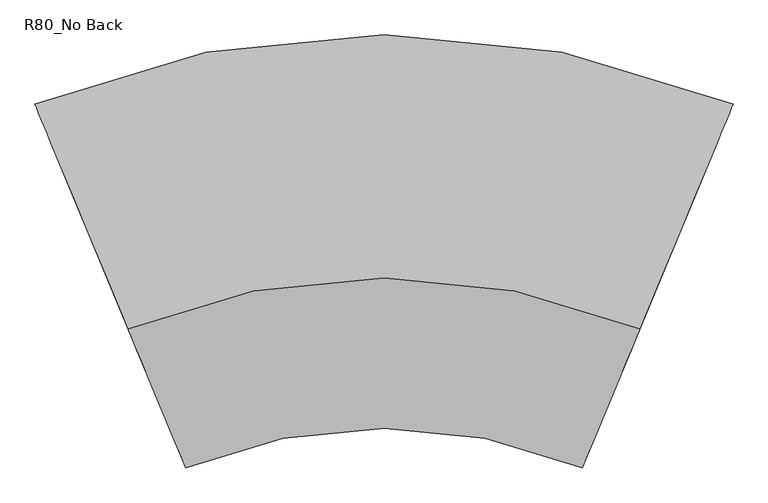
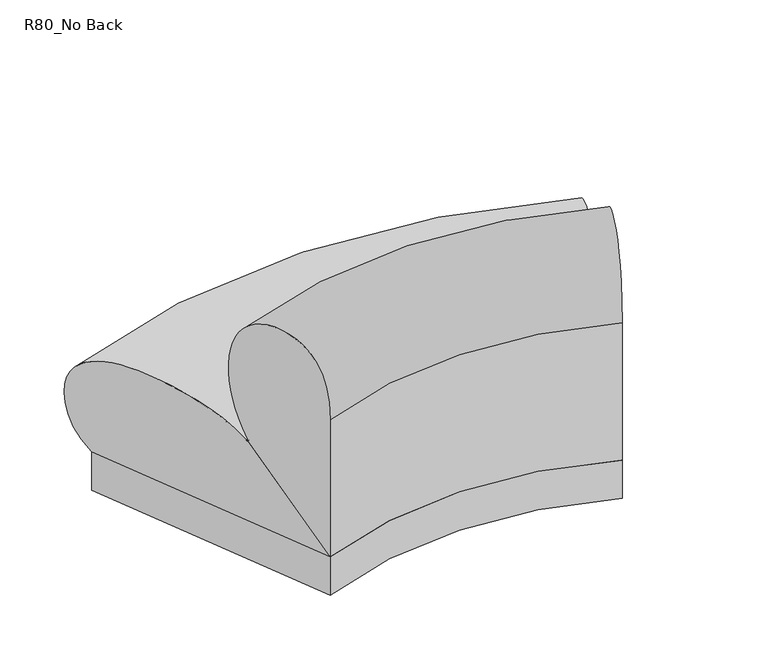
"""IFC4 building model written with IfcOpenShell, lengths in millimetres: furniture geometry, Memo_Candy_CurveOutside_R80 : R80_No Back."""

from ifc_helpers import new_model, si_unit, point, frame, frame_2d, origin, origin_with_axes, place, context, project, spatial, polyline, circle_curve, ellipse_curve, trimmed, segment, composite_curve, outline, extrude, source, transform, mapped, element, save
from ifc_brep_helpers import plane_surface, revolved_surface, spline_curve, advanced_brep


def r80_no_back_58fa6912(model_context):
    return source(origin(), model_context, "Body", "SolidModel", [
        advanced_brep(
        [(-434.9771234, -486.5723294, 130.8862), (-434.9771234, -486.5723294, 562.6862), (-537.3036784, -239.5341724, 386.6180112), (-537.4516317, -239.1769817, 382.770933), (434.9771234, -486.5723294, 130.8862), (537.4516317, -239.1769817, 382.770933), (537.3036784, -239.5341724, 386.6180112), (434.9771234, -486.5723294, 562.6862)],
        [
            (0, 1),
            (1, 2, spline_curve(3, [(-434.9771234, -486.5723294, 562.6862), (-434.9771234, -486.5723294, 709.516352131), (-457.799694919, -431.473767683, 756.110862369), (-506.132644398, -314.787705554, 789.248467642), (-531.671678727, -253.131022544, 768.908542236), (-559.599305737, -185.707766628, 674.263665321), (-563.47953347, -176.340068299, 603.825037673), (-556.829722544, -192.394132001, 487.129586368), (-549.805793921, -209.351395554, 439.369212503), (-537.3036784, -239.5341724, 386.6180112)], [4, 2, 2, 2, 4], [0.0, 0.5511378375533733, 1.1606492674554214, 1.727611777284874, 2.146168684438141])),
            (2, 3, circle_curve(frame((-538.3366439, -237.0403731, 384.9463138), z_axis=(0.9238795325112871, 0.38268343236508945, 0.0), x_axis=(0.38268343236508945, -0.9238795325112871, 0.0)), 3.175)),
            (3, 0),
            (4, 5),
            (5, 6, circle_curve(frame((538.3366439, -237.0403731, 384.9463138), z_axis=(-0.9238795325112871, 0.38268343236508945, 0.0), x_axis=(-0.38268343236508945, -0.9238795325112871, 0.0)), 3.175)),
            (6, 7, spline_curve(3, [(537.3036784, -239.5341724, 386.6180112), (549.805793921, -209.351395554, 439.369212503), (556.829722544, -192.394132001, 487.129586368), (563.47953347, -176.340068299, 603.825037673), (559.599305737, -185.707766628, 674.263665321), (531.671678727, -253.131022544, 768.908542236), (506.132644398, -314.787705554, 789.248467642), (457.799694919, -431.473767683, 756.110862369), (434.9771234, -486.5723294, 709.516352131), (434.9771234, -486.5723294, 562.6862)], [4, 2, 2, 2, 4], [0.0, 0.4185569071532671, 0.9855194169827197, 1.5950308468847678, 2.146168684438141])),
            (7, 4),
            (4, 0, circle_curve(frame((0.0, -1536.7, 130.8862), z_axis=(0.0, 0.0, 1.0), x_axis=(-0.38268343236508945, 0.9238795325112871, 0.0)), 1136.65)),
            (3, 5, circle_curve(frame((0.0, -1536.7, 382.770933), z_axis=(0.0, 0.0, -1.0), x_axis=(-0.38268343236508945, 0.9238795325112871, 0.0)), 1404.4287947)),
            (2, 6, circle_curve(frame((0.0, -1536.7, 386.6180112), z_axis=(0.0, 0.0, -1.0), x_axis=(-0.38268343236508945, 0.9238795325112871, 0.0)), 1404.0421742)),
            (1, 7, circle_curve(frame((0.0, -1536.7, 562.6862), z_axis=(0.0, 0.0, -1.0), x_axis=(-0.38268343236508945, 0.9238795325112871, 0.0)), 1136.65)),
        ],
        [
            plane_surface(frame((0.0, -1536.7, -101.6), z_axis=(-0.923879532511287, -0.3826834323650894, 0.0), x_axis=(-0.3826834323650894, 0.923879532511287, 0.0))),
            plane_surface(frame((0.0, -1536.7, -101.6), z_axis=(0.923879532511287, -0.3826834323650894, 0.0), x_axis=(0.3826834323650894, 0.923879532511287, 0.0))),
            revolved_surface(polyline([(-537.4516317, -239.1769817, 382.770933), (-434.9771234, -486.5723294, 130.8862)]), (0.0, -1536.7, -101.6), (0.0, 0.0, -1.0)),
            revolved_surface(trimmed(ellipse_curve(frame((-538.3366439, -237.0403731, 384.9463138), z_axis=(0.9238795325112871, 0.38268343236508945, 0.0), x_axis=(0.38268343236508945, -0.9238795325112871, 0.0)), 3.175, 3.175), [point((-537.3036784, -239.5341724, 386.6180112))], [point((-537.4516317, -239.1769817, 382.770933))], True, "CARTESIAN"), (0.0, -1536.7, -101.6), (0.0, 0.0, -1.0)),
            revolved_surface(spline_curve(3, [(-434.9771234, -486.5723294, 562.6862), (-434.9771234, -486.5723294, 709.516352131), (-457.799694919, -431.473767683, 756.110862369), (-506.132644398, -314.787705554, 789.248467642), (-531.671678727, -253.131022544, 768.908542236), (-559.599305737, -185.707766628, 674.263665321), (-563.47953347, -176.340068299, 603.825037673), (-556.829722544, -192.394132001, 487.129586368), (-549.805793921, -209.351395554, 439.369212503), (-537.3036784, -239.5341724, 386.6180112)], [4, 2, 2, 2, 4], [0.0, 0.5511378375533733, 1.1606492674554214, 1.727611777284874, 2.146168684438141]), (0.0, -1536.7, -101.6), (0.0, 0.0, -1.0)),
            revolved_surface(polyline([(-434.97712339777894, -486.5723293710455, 130.8862), (-434.97712339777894, -486.5723293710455, 562.6862)]), (0.0, -1536.7, -101.6), (0.0, 0.0, -1.0)),
        ],
        [
            (0, [[1, 2, 3, 4]]),
            (1, [[5, 6, 7, 8]]),
            (2, [[-5, 9, -4, 10]]),
            (3, [[-6, -10, -3, 11]]),
            (4, [[-7, -11, -2, 12]]),
            (5, [[-8, -12, -1, -9]]),
        ],
    ),
        advanced_brep(
        [(-434.9771234, -486.5723294, 130.8862), (-537.4516317, -239.1769817, 382.770933), (-539.0027981, -235.4321347, 382.2910487), (-539.5174609, -234.1896289, 383.1727272), (-731.4419785, 229.1571445, 130.8862), (434.9771234, -486.5723294, 130.8862), (731.4419785, 229.1571445, 130.8862), (539.5174609, -234.1896289, 383.1727272), (539.0027981, -235.4321347, 382.2910487), (537.4516317, -239.1769817, 382.770933)],
        [
            (0, 1),
            (1, 2, circle_curve(frame((-538.3366439, -237.0403731, 384.9463138), z_axis=(0.9238795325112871, 0.38268343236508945, 0.0), x_axis=(0.38268343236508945, -0.9238795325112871, 0.0)), 3.175)),
            (2, 3),
            (3, 4, spline_curve(3, [(-539.5174609, -234.1896289, 383.1727272), (-570.244753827, -160.007381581, 435.812236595), (-612.818599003, -57.225026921, 449.084914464), (-683.336448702, 113.020122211, 454.422655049), (-708.973224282, 174.912773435, 443.81214514), (-748.843453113, 271.168020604, 393.569418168), (-764.09456983, 307.987473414, 357.685536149), (-766.435485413, 313.638943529, 240.606468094), (-758.733439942, 295.04456085, 170.417318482), (-731.4419785, 229.1571445, 130.8862)], [4, 2, 2, 2, 4], [0.0, 0.5700178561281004, 1.2070229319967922, 1.7653111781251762, 2.2072085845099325])),
            (4, 0),
            (5, 6),
            (6, 7, spline_curve(3, [(731.4419785, 229.1571445, 130.8862), (758.733439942, 295.04456085, 170.417318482), (766.435485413, 313.638943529, 240.606468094), (764.09456983, 307.987473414, 357.685536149), (748.843453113, 271.168020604, 393.569418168), (708.973224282, 174.912773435, 443.81214514), (683.336448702, 113.020122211, 454.422655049), (612.818599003, -57.225026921, 449.084914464), (570.244753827, -160.007381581, 435.812236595), (539.5174609, -234.1896289, 383.1727272)], [4, 2, 2, 2, 4], [0.0, 0.4418974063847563, 1.0001856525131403, 1.637190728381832, 2.2072085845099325])),
            (7, 8),
            (8, 9, circle_curve(frame((538.3366439, -237.0403731, 384.9463138), z_axis=(-0.9238795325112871, 0.38268343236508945, 0.0), x_axis=(-0.38268343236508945, -0.9238795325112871, 0.0)), 3.175)),
            (9, 5),
            (5, 0, circle_curve(frame((0.0, -1536.7, 130.8862), z_axis=(0.0, 0.0, 1.0), x_axis=(-0.38268343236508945, 0.9238795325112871, 0.0)), 1136.65)),
            (4, 6, circle_curve(frame((0.0, -1536.7, 130.8862), z_axis=(0.0, 0.0, -1.0), x_axis=(-0.38268343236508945, 0.9238795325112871, 0.0)), 1911.35)),
            (3, 7, circle_curve(frame((0.0, -1536.7, 383.1727272), z_axis=(0.0, 0.0, -1.0), x_axis=(-0.38268343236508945, 0.9238795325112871, 0.0)), 1409.8270665)),
            (2, 8, circle_curve(frame((0.0, -1536.7, 382.2910487), z_axis=(0.0, 0.0, -1.0), x_axis=(-0.38268343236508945, 0.9238795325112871, 0.0)), 1408.4821879)),
            (1, 9, circle_curve(frame((0.0, -1536.7, 382.770933), z_axis=(0.0, 0.0, -1.0), x_axis=(-0.38268343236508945, 0.9238795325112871, 0.0)), 1404.4287947)),
        ],
        [
            plane_surface(frame((0.0, -1536.7, -173.9138), z_axis=(-0.923879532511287, -0.3826834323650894, 0.0), x_axis=(-0.3826834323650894, 0.923879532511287, 0.0))),
            plane_surface(frame((0.0, -1536.7, -173.9138), z_axis=(0.923879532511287, -0.3826834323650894, 0.0), x_axis=(0.3826834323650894, 0.923879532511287, 0.0))),
            plane_surface(frame((0.0, -1536.7, 130.8862), z_axis=(0.0, 0.0, -1.0), x_axis=(-0.3826834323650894, 0.923879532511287, 0.0))),
            revolved_surface(spline_curve(3, [(-539.5174609, -234.1896289, 383.1727272), (-570.244753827, -160.007381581, 435.812236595), (-612.818599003, -57.225026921, 449.084914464), (-683.336448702, 113.020122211, 454.422655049), (-708.973224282, 174.912773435, 443.81214514), (-748.843453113, 271.168020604, 393.569418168), (-764.09456983, 307.987473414, 357.685536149), (-766.435485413, 313.638943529, 240.606468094), (-758.733439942, 295.04456085, 170.417318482), (-731.4419785, 229.1571445, 130.8862)], [4, 2, 2, 2, 4], [0.0, 0.5700178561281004, 1.2070229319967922, 1.7653111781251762, 2.2072085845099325]), (0.0, -1536.7, -173.9138), (0.0, 0.0, -1.0)),
            revolved_surface(polyline([(-539.0027981, -235.4321347, 382.2910487), (-539.5174609, -234.1896289, 383.1727272)]), (0.0, -1536.7, -173.9138), (0.0, 0.0, -1.0)),
            revolved_surface(trimmed(ellipse_curve(frame((-538.3366439, -237.0403731, 384.9463138), z_axis=(0.9238795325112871, 0.38268343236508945, 0.0), x_axis=(0.38268343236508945, -0.9238795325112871, 0.0)), 3.175, 3.175), [point((-537.4516317, -239.1769817, 382.770933))], [point((-539.0027981, -235.4321347, 382.2910487))], True, "CARTESIAN"), (0.0, -1536.7, -173.9138), (0.0, 0.0, -1.0)),
            revolved_surface(polyline([(-434.9771234, -486.5723294, 130.8862), (-537.4516317, -239.1769817, 382.770933)]), (0.0, -1536.7, -173.9138), (0.0, 0.0, -1.0)),
        ],
        [
            (0, [[1, 2, 3, 4, 5]]),
            (1, [[6, 7, 8, 9, 10]]),
            (2, [[-6, 11, -5, 12]]),
            (3, [[-7, -12, -4, 13]]),
            (4, [[-8, -13, -3, 14]]),
            (5, [[-9, -14, -2, 15]]),
            (6, [[-10, -15, -1, -11]]),
        ],
    ),
        extrude(outline(composite_curve([segment(trimmed(circle_curve(frame_2d((0.0, 323.85)), 14.2875), [point((14.2875, 323.85))], [point((-14.2875, 323.85))], False, "CARTESIAN"), True, "CONTINUOUS"), segment(trimmed(circle_curve(frame_2d((0.0, 323.85)), 14.2875), [point((-14.2875, 323.85))], [point((14.2875, 323.85))], False, "CARTESIAN"), True, "CONTINUOUS")], self_intersect=False)), origin_with_axes(), (0.0, 0.0, 1.0), 10.2362),
        extrude(outline(composite_curve([segment(trimmed(circle_curve(frame_2d((401.0911293, -419.040209)), 14.2875), [point((415.3786293, -419.040209))], [point((386.8036293, -419.040209))], False, "CARTESIAN"), True, "CONTINUOUS"), segment(trimmed(circle_curve(frame_2d((401.0911293, -419.040209)), 14.2875), [point((386.8036293, -419.040209))], [point((415.3786293, -419.040209))], False, "CARTESIAN"), True, "CONTINUOUS")], self_intersect=False)), origin_with_axes(), (0.0, 0.0, 1.0), 10.2362),
        extrude(outline(composite_curve([segment(trimmed(circle_curve(frame_2d((658.8659727, 203.2833139)), 14.2875), [point((668.9687608, 193.1805257))], [point((648.7631845, 213.386102))], False, "CARTESIAN"), True, "CONTINUOUS"), segment(trimmed(circle_curve(frame_2d((658.8659727, 203.2833139)), 14.2875), [point((648.7631845, 213.386102))], [point((668.9687608, 193.1805257))], False, "CARTESIAN"), True, "CONTINUOUS")], self_intersect=False)), origin_with_axes(), (0.0, 0.0, 1.0), 10.2362),
        extrude(outline(composite_curve([segment(trimmed(circle_curve(frame_2d((-401.0911293, -419.040209)), 14.2875), [point((-415.3786293, -419.040209))], [point((-386.8036293, -419.040209))], False, "CARTESIAN"), True, "CONTINUOUS"), segment(trimmed(circle_curve(frame_2d((-401.0911293, -419.040209)), 14.2875), [point((-386.8036293, -419.040209))], [point((-415.3786293, -419.040209))], False, "CARTESIAN"), True, "CONTINUOUS")], self_intersect=False)), origin_with_axes(), (0.0, 0.0, 1.0), 10.2362),
        extrude(outline(composite_curve([segment(trimmed(circle_curve(frame_2d((-658.8659727, 203.2833139)), 14.2875), [point((-668.9687608, 193.1805257))], [point((-648.7631845, 213.386102))], False, "CARTESIAN"), True, "CONTINUOUS"), segment(trimmed(circle_curve(frame_2d((-658.8659727, 203.2833139)), 14.2875), [point((-648.7631845, 213.386102))], [point((-668.9687608, 193.1805257))], False, "CARTESIAN"), True, "CONTINUOUS")], self_intersect=False)), origin_with_axes(), (0.0, 0.0, 1.0), 10.2362),
        extrude(outline(composite_curve([segment(polyline([(731.4419785, 229.1571445), (434.9771234, -486.5723294)]), True, "CONTINUOUS"), segment(trimmed(circle_curve(frame_2d((0.0, -1536.7)), 1136.65), [point((434.9771234, -486.5723294))], [point((-434.9771234, -486.5723294))], True, "CARTESIAN"), True, "CONTINUOUS"), segment(polyline([(-434.9771234, -486.5723294), (-731.4419785, 229.1571445)]), True, "CONTINUOUS"), segment(trimmed(circle_curve(frame_2d((0.0, -1536.7)), 1911.35), [point((-731.4419785, 229.1571445))], [point((731.4419785, 229.1571445))], False, "CARTESIAN"), True, "CONTINUOUS")], self_intersect=False)), frame((0.0, 0.0, 10.2362), z_axis=(0.0, 0.0, 1.0), x_axis=(1.0, 0.0, 0.0)), (0.0, 0.0, 1.0), 120.65),
    ])


if __name__ == "__main__":
    model = new_model("IFC4")
    model_context = context("Model", 3, world=origin())
    ifc_project = project(units=[si_unit("LENGTHUNIT", "METRE", prefix="MILLI")], contexts=[model_context])
    site = spatial("IfcSite", under=ifc_project)
    building = spatial("IfcBuilding", under=site)
    placement = place(None, origin())
    r80_no_back_shape = r80_no_back_58fa6912(model_context)
    element("IfcFurniture", 1, ObjectType="Memo_Candy_CurveOutside_R80 : R80_No Back", at=placement, inside=building, context=model_context, shape_type="MappedRepresentation", body=[
        mapped(r80_no_back_shape, transform((0.0, 0.0, 0.0), x_axis=(1.0, 0.0, 0.0), y_axis=(0.0, 1.0, 0.0), z_axis=(0.0, 0.0, 1.0))),
    ])
    save(model, "model.ifc")
